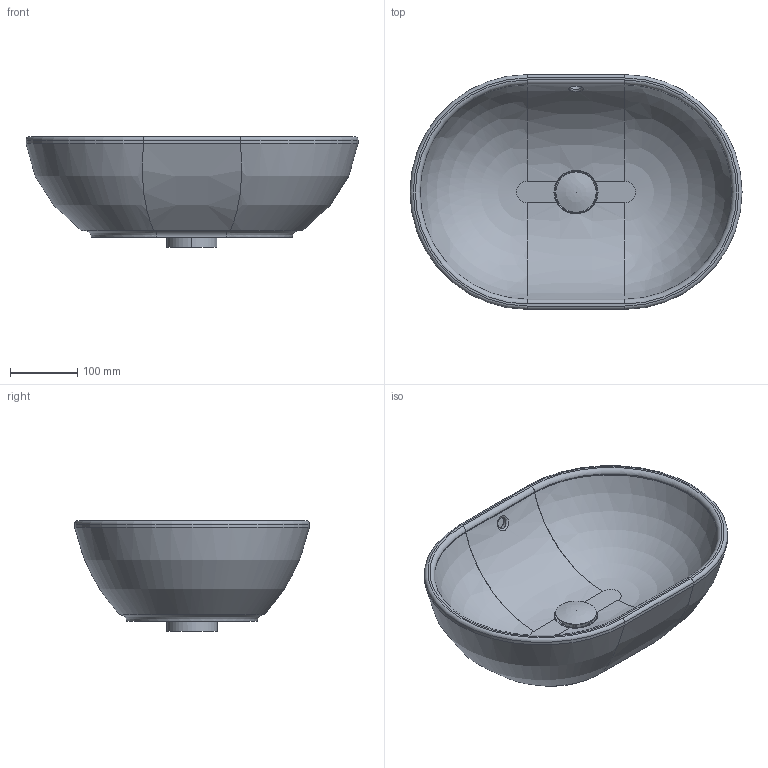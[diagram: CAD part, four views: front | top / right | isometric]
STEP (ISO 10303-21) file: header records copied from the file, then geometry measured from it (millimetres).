
FILE_DESCRIPTION((''),'2;1');
FILE_NAME('C:\Dokumente und Einstellungen\Andreas\Desktop\033550 Korrektur 3d\stp\033550.stp','2010-05-18T10:14:16',('Andreas'),(''),'Autodesk Inventor 2009','Autodesk Inventor 2009','');
FILE_SCHEMA(('AUTOMOTIVE_DESIGN { 1 0 10303 214 1 1 1 1 }'));
Length unit declared in the file: millimetre
Products named in the file (4): 033550; Kelch; Stopfen
Assembly tree (3 placements, depth 2):
  033550
    033550
    Kelch
    Stopfen
Bounding box: 495 x 350 x 165 mm (x, y, z)
Volume: 5992308.8 mm3; surface area: 532439.5 mm2
Topology: 5 solids, 5 shells, 129 faces, 300 edges, 186 vertices
Faces by surface type: bspline 42, cylinder 38, plane 36, torus 11, cone 2
Full cylindrical faces by diameter (mm): 12 x2, 16.465 x1, 20 x2, 42 x1, 44 x1, 52 x1, 60 x1
Entity records: 9289 total; most frequent: CARTESIAN_POINT 6587, ORIENTED_EDGE 558, DIRECTION 469, EDGE_CURVE 279, AXIS2_PLACEMENT_3D 195, VERTEX_POINT 178, EDGE_LOOP 152, FACE_OUTER_BOUND 129
